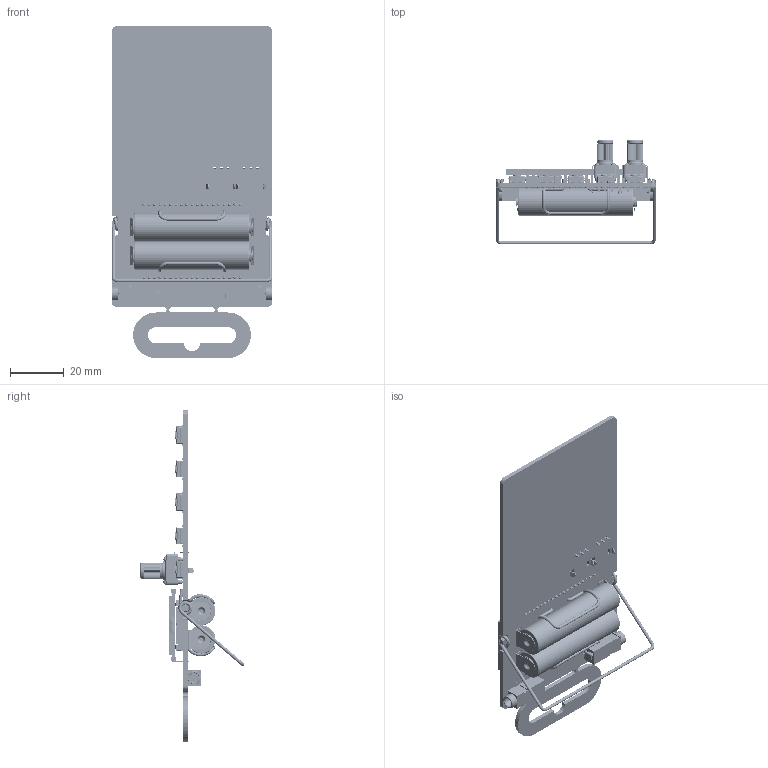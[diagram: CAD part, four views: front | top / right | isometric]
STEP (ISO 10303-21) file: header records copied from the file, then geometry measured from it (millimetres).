
FILE_DESCRIPTION (( 'STEP AP214' ), '1' );
FILE_NAME ('PO CAD.STEP', '2015-05-11T13:40:48', ( '' ), ( '' ), 'SwSTEP 2.0', 'SolidWorks 2013', '' );
FILE_SCHEMA (( 'AUTOMOTIVE_DESIGN' ));
Length unit declared in the file: millimetre
Products named in the file (1): PO CAD
Bounding box: 60 x 39.14 x 124 mm (x, y, z)
Volume: 29418.6 mm3; surface area: 39175.6 mm2
Topology: 141 solids, 141 shells, 10488 faces, 26006 edges, 15961 vertices
Faces by surface type: plane 6651, cylinder 3081, bspline 526, torus 148, cone 74, sphere 8
Entity records: 403294 total; most frequent: CARTESIAN_POINT 72912, ORIENTED_EDGE 51932, DIRECTION 50833, EDGE_CURVE 25966, VECTOR 18409, LINE 18409, AXIS2_PLACEMENT_3D 16212, VERTEX_POINT 15945
